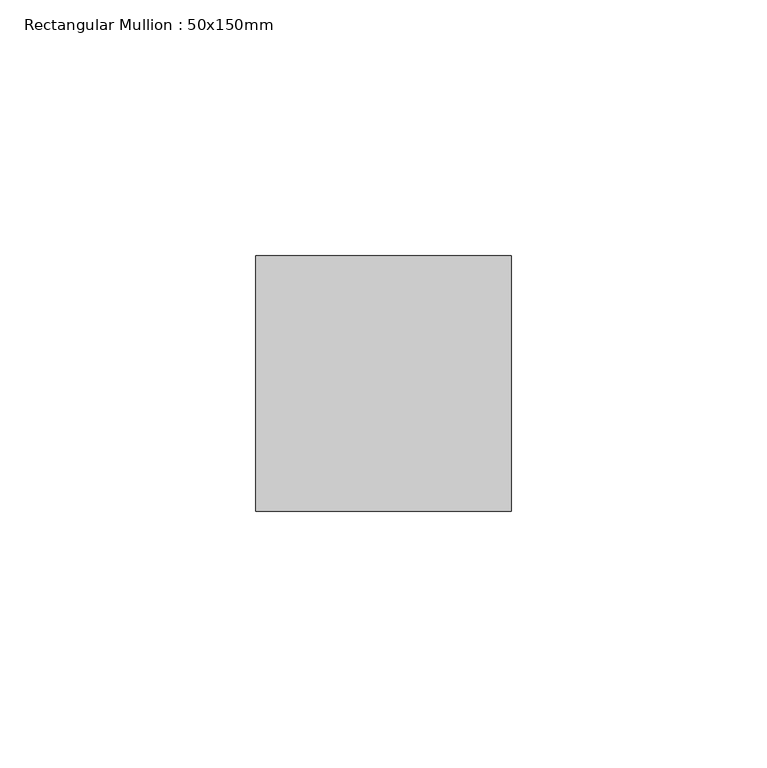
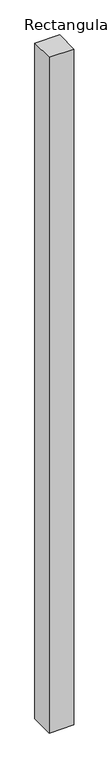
"""IFC4 building model written with IfcOpenShell, lengths in millimetres: member geometry, Rectangular Mullion : 50x150mm."""

from ifc_helpers import new_model, si_unit, frame, origin, place, context, project, spatial, polyline, outline, extrude, source, transform, mapped, element, save


def rectangular_mullion_50x150mm_0beb519f(model_context):
    return source(origin(), model_context, "Body", "SweptSolid", [
        extrude(outline(polyline([(0.0, 25.0), (0.0, -25.0), (-50.0, -25.0), (-50.0, 25.0), (0.0, 25.0)])), frame((0.0, 0.0, -1450.0), z_axis=(0.0, 0.0, 1.0), x_axis=(1.0, 0.0, 0.0)), (0.0, 0.0, 1.0), 1450.0),
    ])


if __name__ == "__main__":
    model = new_model("IFC4")
    model_context = context("Model", 3, world=origin())
    ifc_project = project(units=[si_unit("LENGTHUNIT", "METRE", prefix="MILLI")], contexts=[model_context])
    site = spatial("IfcSite", under=ifc_project)
    building = spatial("IfcBuilding", under=site)
    placement = place(None, origin())
    rectangular_mullion_50x150mm_shape = rectangular_mullion_50x150mm_0beb519f(model_context)
    element("IfcMember", 1, ObjectType="Rectangular Mullion : 50x150mm", at=placement, inside=building, context=model_context, shape_type="MappedRepresentation", body=[
        mapped(rectangular_mullion_50x150mm_shape, transform((0.0, 0.0, 0.0), x_axis=(1.0, 0.0, 0.0), y_axis=(0.0, 1.0, 0.0), z_axis=(0.0, 0.0, 1.0))),
    ])
    save(model, "model.ifc")
